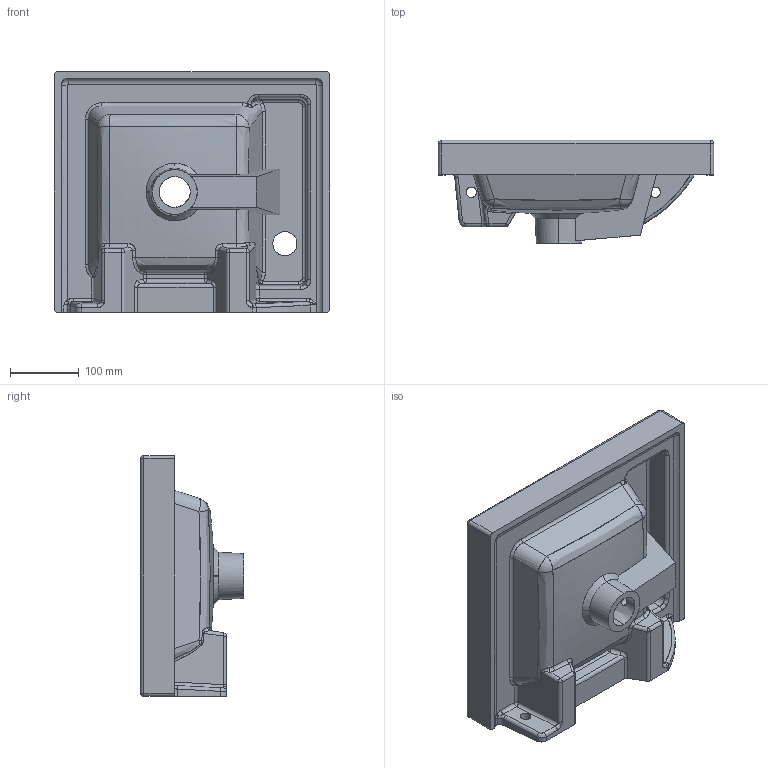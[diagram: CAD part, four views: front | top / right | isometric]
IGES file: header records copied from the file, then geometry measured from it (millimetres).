
Start section: SolidWorks IGES file using analytic representation for surfaces
Global section: file name: K:\lavabi tecla 3D IGS\f. SERIE 35 (4)\SERIE35 35X40 3504011.IGS; native system: SolidWorks 2013; preprocessor: SolidWorks 2013; author: UTENTE 1; date: 140521.170623; units: millimetre
Bounding box: 400 x 150 x 350 mm (x, y, z)
Surface area: 674442.7 mm2 (no closed solid volume)
Topology: 0 solids, 0 shells, 273 faces, 3335 edges, 3330 vertices
Faces by surface type: bspline 147, revolution 126
